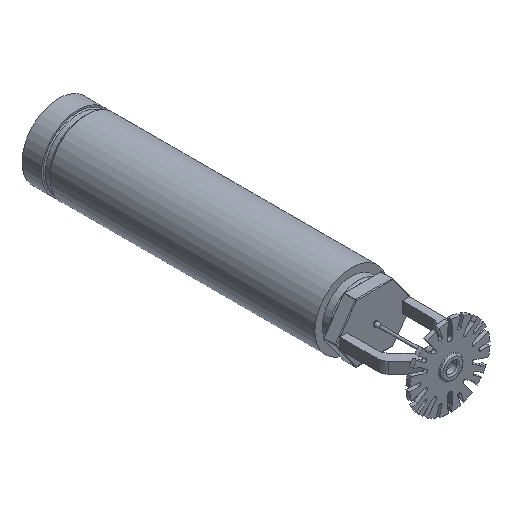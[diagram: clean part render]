
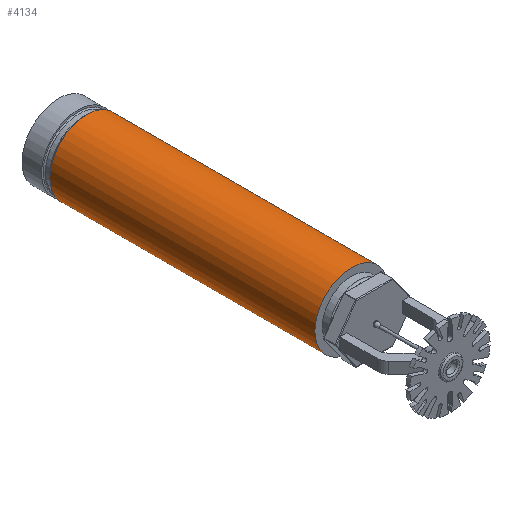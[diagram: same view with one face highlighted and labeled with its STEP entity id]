
A CAD part, isometric view. The second image highlights one B-rep face of the part: STEP entity #4134.
In plain terms, the highlighted cylindrical face has radius 16.701 mm (diameter 33.401 mm), a full revolution.
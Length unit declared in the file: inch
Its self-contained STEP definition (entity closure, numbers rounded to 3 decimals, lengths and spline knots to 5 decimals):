
#88=LINE('',#6157,#432);
#432=VECTOR('',#4911,0.6575);
#775=CYLINDRICAL_SURFACE('',#4427,0.6575);
#881=FACE_OUTER_BOUND('',#1108,.T.);
#1108=EDGE_LOOP('',(#2600,#2601,#2602,#2603,#2604,#2605));
#1349=CIRCLE('',#4425,0.6575);
#1350=CIRCLE('',#4426,0.6575);
#1351=CIRCLE('',#4428,0.6575);
#1352=CIRCLE('',#4429,0.6575);
#1576=VERTEX_POINT('',#6147);
#1577=VERTEX_POINT('',#6148);
#1578=VERTEX_POINT('',#6153);
#1579=VERTEX_POINT('',#6154);
#1973=EDGE_CURVE('',#1576,#1577,#1349,.T.);
#1974=EDGE_CURVE('',#1577,#1576,#1350,.T.);
#1976=EDGE_CURVE('',#1578,#1579,#1351,.T.);
#1977=EDGE_CURVE('',#1579,#1578,#1352,.T.);
#1978=EDGE_CURVE('',#1579,#1576,#88,.T.);
#2600=ORIENTED_EDGE('',*,*,#1976,.F.);
#2601=ORIENTED_EDGE('',*,*,#1977,.F.);
#2602=ORIENTED_EDGE('',*,*,#1978,.T.);
#2603=ORIENTED_EDGE('',*,*,#1973,.T.);
#2604=ORIENTED_EDGE('',*,*,#1974,.T.);
#2605=ORIENTED_EDGE('',*,*,#1978,.F.);
#4134=ADVANCED_FACE('',(#881),#775,.T.);
#4425=AXIS2_PLACEMENT_3D('',#6149,#4900,#4901);
#4426=AXIS2_PLACEMENT_3D('',#6150,#4902,#4903);
#4427=AXIS2_PLACEMENT_3D('',#6152,#4905,#4906);
#4428=AXIS2_PLACEMENT_3D('',#6155,#4907,#4908);
#4429=AXIS2_PLACEMENT_3D('',#6156,#4909,#4910);
#4900=DIRECTION('center_axis',(0.,-1.,0.));
#4901=DIRECTION('ref_axis',(-1.,0.,0.));
#4902=DIRECTION('center_axis',(0.,-1.,0.));
#4903=DIRECTION('ref_axis',(-1.,0.,0.));
#4905=DIRECTION('center_axis',(0.,-1.,0.));
#4906=DIRECTION('ref_axis',(-1.,0.,0.));
#4907=DIRECTION('center_axis',(0.,-1.,0.));
#4908=DIRECTION('ref_axis',(1.,0.,0.));
#4909=DIRECTION('center_axis',(0.,-1.,0.));
#4910=DIRECTION('ref_axis',(1.,0.,0.));
#4911=DIRECTION('',(0.,1.,0.));
#6147=CARTESIAN_POINT('',(0.6575,6.5625,0.));
#6148=CARTESIAN_POINT('',(-0.6575,6.5625,0.));
#6149=CARTESIAN_POINT('Origin',(0.,6.5625,0.));
#6150=CARTESIAN_POINT('Origin',(0.,6.5625,0.));
#6152=CARTESIAN_POINT('Origin',(0.,4.4375,0.));
#6153=CARTESIAN_POINT('',(-0.6575,1.8125,0.));
#6154=CARTESIAN_POINT('',(0.6575,1.8125,0.));
#6155=CARTESIAN_POINT('Origin',(0.,1.8125,0.));
#6156=CARTESIAN_POINT('Origin',(0.,1.8125,0.));
#6157=CARTESIAN_POINT('',(0.6575,4.4375,0.));
